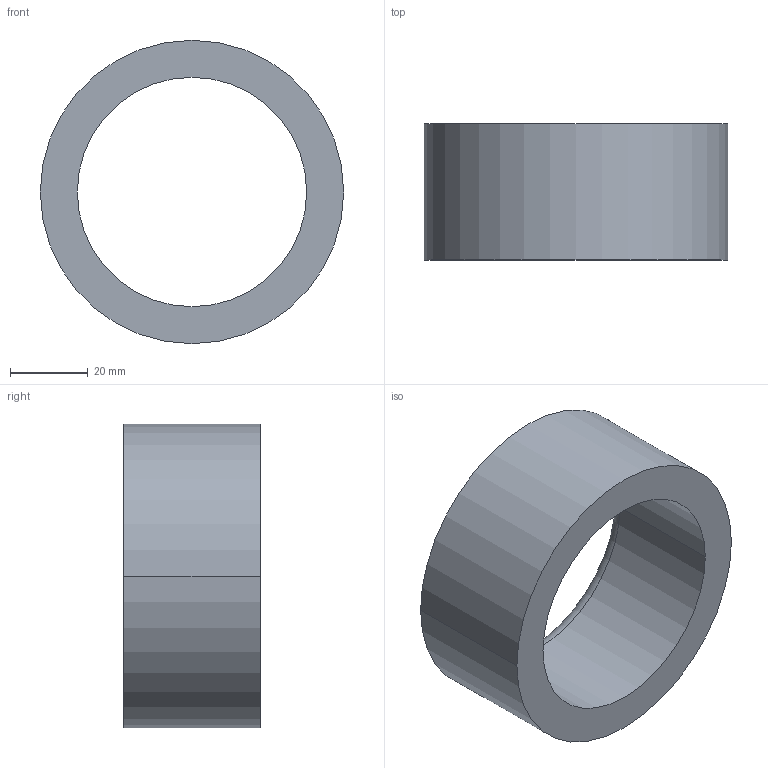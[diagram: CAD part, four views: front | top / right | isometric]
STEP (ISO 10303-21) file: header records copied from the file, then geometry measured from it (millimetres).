
FILE_DESCRIPTION (( 'STEP AP203' ), '1' );
FILE_NAME ('30800.WPP78M59.0.step', '2019-01-23T23:03:25', ( '' ), ( '' ), 'SwSTEP 2.0', 'SolidWorks 2017', '' );
FILE_SCHEMA (( 'CONFIG_CONTROL_DESIGN' ));
Length unit declared in the file: millimetre
Products named in the file (1): 30800.WPP78M59.0
Bounding box: 78 x 35 x 78 mm (x, y, z)
Volume: 70898 mm3; surface area: 18841.6 mm2
Topology: 1 solids, 1 shells, 8 faces, 16 edges, 10 vertices
Faces by surface type: cylinder 4, torus 2, plane 2
Entity records: 297 total; most frequent: DIRECTION 46, CARTESIAN_POINT 35, ORIENTED_EDGE 32, AXIS2_PLACEMENT_3D 21, EDGE_CURVE 16, CIRCLE 12, VERTEX_POINT 10, EDGE_LOOP 10
